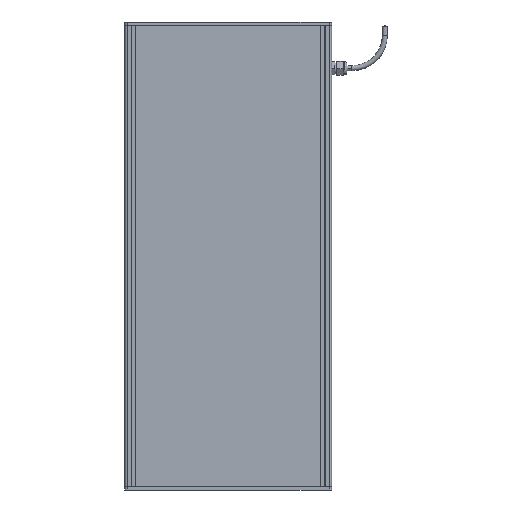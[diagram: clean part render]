
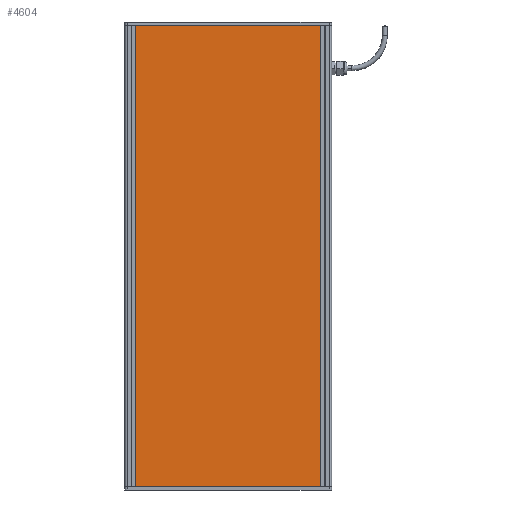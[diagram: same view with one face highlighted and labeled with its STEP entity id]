
A CAD part, front view. The second image highlights one B-rep face of the part: STEP entity #4604.
In plain terms, the highlighted planar face has unit normal (0, -1, 0) as drawn and (0, 0, 1) by its records, which use the part's own axes.
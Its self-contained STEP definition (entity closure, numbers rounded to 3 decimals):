
#577 = CARTESIAN_POINT ( 'NONE',  ( -309., 0., 0. ) ) ;
#815 = EDGE_CURVE ( 'NONE', #5563, #8773, #3367, .T. ) ;
#1578 = CARTESIAN_POINT ( 'NONE',  ( -9., 0., 0. ) ) ;
#1886 = DIRECTION ( 'NONE',  ( 0., 1., 0. ) ) ;
#2363 = DIRECTION ( 'NONE',  ( 0., 0., -1. ) ) ;
#3065 = LINE ( 'NONE', #12673, #3424 ) ;
#3367 = LINE ( 'NONE', #8403, #14154 ) ;
#3424 = VECTOR ( 'NONE', #1886, 1000. ) ;
#3821 = VERTEX_POINT ( 'NONE', #14793 ) ;
#4604 = ADVANCED_FACE ( 'NONE', ( #9546 ), #13156, .F. ) ;
#4949 = AXIS2_PLACEMENT_3D ( 'NONE', #7267, #2363, #12055 ) ;
#5563 = VERTEX_POINT ( 'NONE', #9230 ) ;
#6025 = EDGE_LOOP ( 'NONE', ( #15566, #12923, #12319, #12044 ) ) ;
#7267 = CARTESIAN_POINT ( 'NONE',  ( 0., 0., 0. ) ) ;
#7410 = VECTOR ( 'NONE', #12473, 1000. ) ;
#7652 = LINE ( 'NONE', #1578, #12835 ) ;
#8173 = DIRECTION ( 'NONE',  ( 1., 0., 0. ) ) ;
#8374 = EDGE_CURVE ( 'NONE', #3821, #14362, #7652, .T. ) ;
#8403 = CARTESIAN_POINT ( 'NONE',  ( -9., -750., 0. ) ) ;
#8773 = VERTEX_POINT ( 'NONE', #14873 ) ;
#9230 = CARTESIAN_POINT ( 'NONE',  ( -309., -750., 0. ) ) ;
#9546 = FACE_OUTER_BOUND ( 'NONE', #6025, .T. ) ;
#11618 = EDGE_CURVE ( 'NONE', #8773, #3821, #3065, .T. ) ;
#12044 = ORIENTED_EDGE ( 'NONE', *, *, #815, .T. ) ;
#12055 = DIRECTION ( 'NONE',  ( -1., 0., 0. ) ) ;
#12260 = CARTESIAN_POINT ( 'NONE',  ( -309., 0., 0. ) ) ;
#12319 = ORIENTED_EDGE ( 'NONE', *, *, #13217, .T. ) ;
#12442 = DIRECTION ( 'NONE',  ( -1., 0., 0. ) ) ;
#12473 = DIRECTION ( 'NONE',  ( 0., -1., 0. ) ) ;
#12673 = CARTESIAN_POINT ( 'NONE',  ( -9., 0., 0. ) ) ;
#12835 = VECTOR ( 'NONE', #12442, 1000. ) ;
#12923 = ORIENTED_EDGE ( 'NONE', *, *, #8374, .T. ) ;
#13156 = PLANE ( 'NONE',  #4949 ) ;
#13217 = EDGE_CURVE ( 'NONE', #14362, #5563, #13875, .T. ) ;
#13875 = LINE ( 'NONE', #577, #7410 ) ;
#14154 = VECTOR ( 'NONE', #8173, 1000. ) ;
#14362 = VERTEX_POINT ( 'NONE', #12260 ) ;
#14793 = CARTESIAN_POINT ( 'NONE',  ( -9., 0., 0. ) ) ;
#14873 = CARTESIAN_POINT ( 'NONE',  ( -9., -750., 0. ) ) ;
#15566 = ORIENTED_EDGE ( 'NONE', *, *, #11618, .T. ) ;
